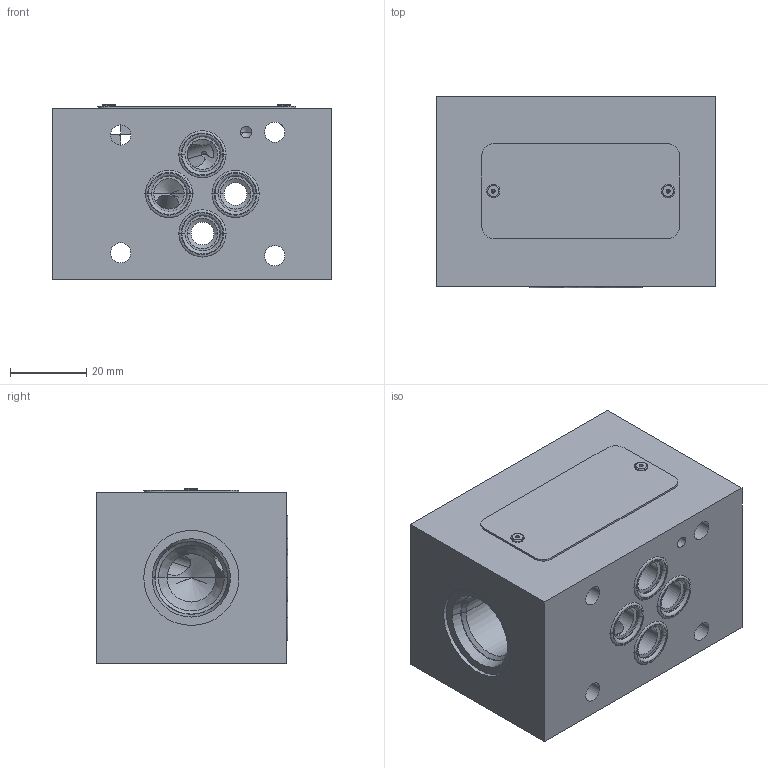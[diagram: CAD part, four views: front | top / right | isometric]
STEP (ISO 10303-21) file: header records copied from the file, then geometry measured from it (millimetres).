
FILE_DESCRIPTION((''),'2;1');
FILE_NAME('1000073098_ASM','2023-10-12T',('l.soukupova'),(''),'PRO/ENGINEER BY PARAMETRIC TECHNOLOGY CORPORATION, 2015440','PRO/ENGINEER BY PARAMETRIC TECHNOLOGY CORPORATION, 2015440','');
FILE_SCHEMA(('AUTOMOTIVE_DESIGN { 1 0 10303 214 1 1 1 1 }'));
Length unit declared in the file: millimetre
Products named in the file (8): 30970001; RD_LABEL_25X52_159703; AF_1932_16485; ORAR00012_201524_AF0; ORAR00012_201524_AF1; ORAR00012_201524_AF2; ORAR00012_201524_AF3; 1000073098_ASM
Assembly tree (8 placements, depth 2):
  1000073098_ASM
    30970001
    RD_LABEL_25X52_159703
    AF_1932_16485  x2
    ORAR00012_201524_AF0
    ORAR00012_201524_AF1
    ORAR00012_201524_AF2
    ORAR00012_201524_AF3
Bounding box: 73.5 x 50.38 x 46 mm (x, y, z)
Volume: 147831.2 mm3; surface area: 31601.6 mm2
Topology: 8 solids, 11 shells, 189 faces, 573 edges, 475 vertices
Faces by surface type: cylinder 90, torus 36, plane 34, cone 29
Entity records: 10565 total; most frequent: CARTESIAN_POINT 1878, DIRECTION 1224, ORIENTED_EDGE 816, PRESENTATION_STYLE_ASSIGNMENT 706, STYLED_ITEM 595, CURVE_STYLE 586, AXIS2_PLACEMENT_3D 497, EDGE_CURVE 414
